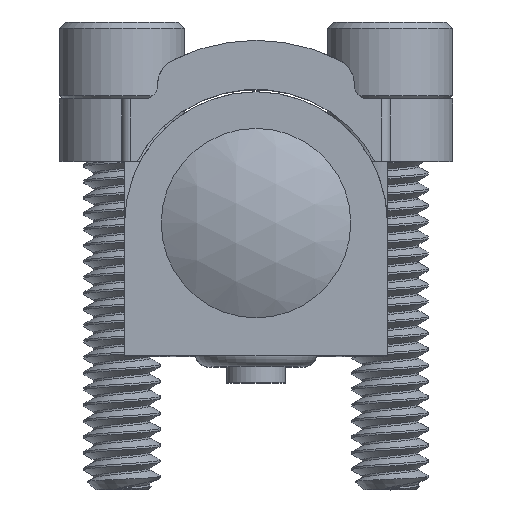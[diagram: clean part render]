
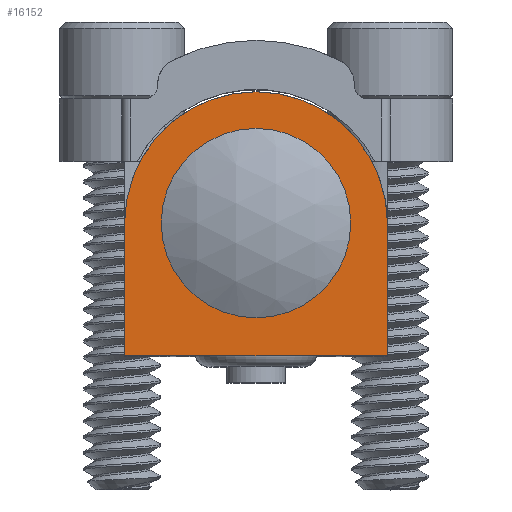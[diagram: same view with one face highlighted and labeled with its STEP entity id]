
A CAD part, top view. The second image highlights one B-rep face of the part: STEP entity #16152.
In plain terms, the highlighted planar face has unit normal (0, 0, 1).
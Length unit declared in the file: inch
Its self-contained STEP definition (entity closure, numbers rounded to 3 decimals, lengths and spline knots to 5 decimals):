
#191 = DIRECTION ( 'NONE',  ( 0., 0., 1. ) ) ;
#603 = ORIENTED_EDGE ( 'NONE', *, *, #11306, .T. ) ;
#1972 = VERTEX_POINT ( 'NONE', #21982 ) ;
#2338 = VECTOR ( 'NONE', #14140, 39.37008 ) ;
#2345 = EDGE_LOOP ( 'NONE', ( #26038, #603, #14423, #17771 ) ) ;
#3754 = CIRCLE ( 'NONE', #13933, 0.106 ) ;
#4394 = VERTEX_POINT ( 'NONE', #27825 ) ;
#5779 = VECTOR ( 'NONE', #21924, 39.37008 ) ;
#6612 = CARTESIAN_POINT ( 'NONE',  ( -0.147, -0.1485, 0.566 ) ) ;
#6952 = CARTESIAN_POINT ( 'NONE',  ( 0.147, 0., 0.566 ) ) ;
#7657 = CARTESIAN_POINT ( 'NONE',  ( -0.147, 0., 0.566 ) ) ;
#8241 = EDGE_LOOP ( 'NONE', ( #28639 ) ) ;
#8911 = CARTESIAN_POINT ( 'NONE',  ( -0.147, 0., 0.566 ) ) ;
#8918 = EDGE_CURVE ( 'NONE', #10615, #10615, #3754, .T. ) ;
#9493 = AXIS2_PLACEMENT_3D ( 'NONE', #22659, #25261, #20503 ) ;
#10615 = VERTEX_POINT ( 'NONE', #12926 ) ;
#11266 = VERTEX_POINT ( 'NONE', #13455 ) ;
#11306 = EDGE_CURVE ( 'NONE', #4394, #11266, #26756, .T. ) ;
#11693 = FACE_OUTER_BOUND ( 'NONE', #2345, .T. ) ;
#12926 = CARTESIAN_POINT ( 'NONE',  ( 0.106, 0., 0.566 ) ) ;
#13455 = CARTESIAN_POINT ( 'NONE',  ( 0.147, 0., 0.566 ) ) ;
#13692 = LINE ( 'NONE', #8911, #26554 ) ;
#13933 = AXIS2_PLACEMENT_3D ( 'NONE', #26640, #17679, #23886 ) ;
#14140 = DIRECTION ( 'NONE',  ( 0., 1., 0. ) ) ;
#14423 = ORIENTED_EDGE ( 'NONE', *, *, #17334, .T. ) ;
#14940 = AXIS2_PLACEMENT_3D ( 'NONE', #17692, #191, #15243 ) ;
#15243 = DIRECTION ( 'NONE',  ( 1., 0., 0. ) ) ;
#16152 = ADVANCED_FACE ( 'NONE', ( #21072, #11693 ), #18623, .T. ) ;
#17334 = EDGE_CURVE ( 'NONE', #11266, #19233, #22772, .T. ) ;
#17679 = DIRECTION ( 'NONE',  ( 0., 0., 1. ) ) ;
#17692 = CARTESIAN_POINT ( 'NONE',  ( 0., 0., 0.566 ) ) ;
#17771 = ORIENTED_EDGE ( 'NONE', *, *, #18315, .T. ) ;
#18226 = EDGE_CURVE ( 'NONE', #1972, #4394, #26415, .T. ) ;
#18315 = EDGE_CURVE ( 'NONE', #19233, #1972, #13692, .T. ) ;
#18623 = PLANE ( 'NONE',  #9493 ) ;
#19233 = VERTEX_POINT ( 'NONE', #7657 ) ;
#20503 = DIRECTION ( 'NONE',  ( 1., 0., 0. ) ) ;
#21072 = FACE_BOUND ( 'NONE', #8241, .T. ) ;
#21924 = DIRECTION ( 'NONE',  ( 1., 0., 0. ) ) ;
#21982 = CARTESIAN_POINT ( 'NONE',  ( -0.147, -0.1485, 0.566 ) ) ;
#22659 = CARTESIAN_POINT ( 'NONE',  ( 0., 0., 0.566 ) ) ;
#22772 = CIRCLE ( 'NONE', #14940, 0.147 ) ;
#23886 = DIRECTION ( 'NONE',  ( 1., 0., 0. ) ) ;
#24528 = DIRECTION ( 'NONE',  ( 0., -1., 0. ) ) ;
#25261 = DIRECTION ( 'NONE',  ( 0., 0., 1. ) ) ;
#26038 = ORIENTED_EDGE ( 'NONE', *, *, #18226, .T. ) ;
#26415 = LINE ( 'NONE', #6612, #5779 ) ;
#26554 = VECTOR ( 'NONE', #24528, 39.37008 ) ;
#26640 = CARTESIAN_POINT ( 'NONE',  ( 0., 0., 0.566 ) ) ;
#26756 = LINE ( 'NONE', #6952, #2338 ) ;
#27825 = CARTESIAN_POINT ( 'NONE',  ( 0.147, -0.1485, 0.566 ) ) ;
#28639 = ORIENTED_EDGE ( 'NONE', *, *, #8918, .F. ) ;
